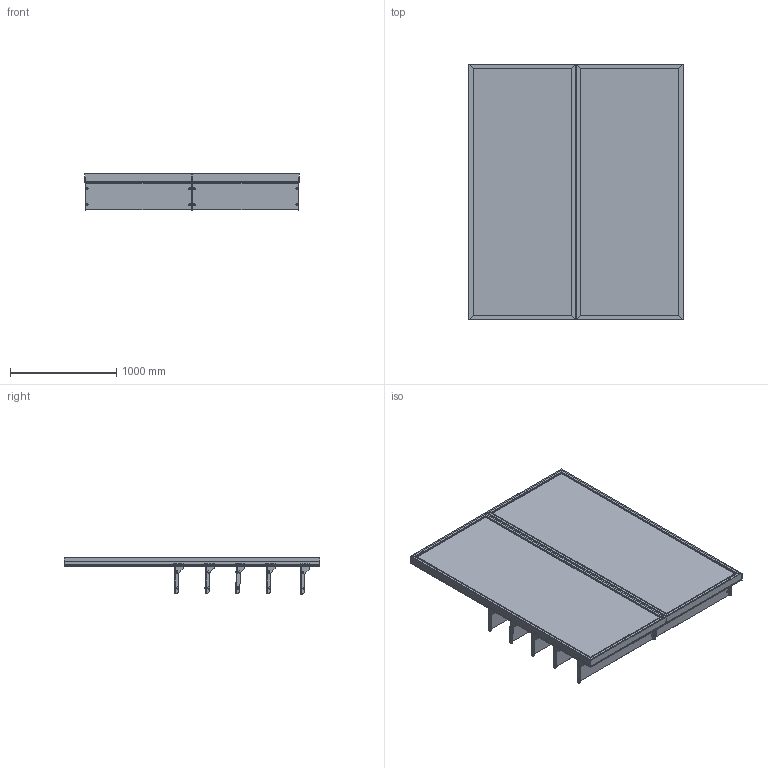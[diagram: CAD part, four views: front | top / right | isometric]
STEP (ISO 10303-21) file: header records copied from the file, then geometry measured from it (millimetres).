
FILE_DESCRIPTION (( 'STEP AP203' ), '1' );
FILE_NAME ('2m Double Illuminated Salon Retail Wall - Glass Shelving.STEP', '2026-03-30T13:26:29', ( '' ), ( '' ), 'SwSTEP 2.0', 'SolidWorks 2025', '' );
FILE_SCHEMA (( 'CONFIG_CONTROL_DESIGN' ));
Length unit declared in the file: millimetre
Products named in the file (12): 0000-31-113.STEP; 0001-31-114.STEP; 0001-31-SA29.STEP; 0001-31-GA10 - 1005W Slotted upbright; 0001-31-SA31 - 1005W Glass Shelf_Assem5; Wide Illuminated Salon Retail Display - Glass Shelving_Assem1; 0001-31-SA31 - 1005W Glass Shelf.STEP; 0001-31-123.STEP; 0001-31-124.STEP; 0001-31-SA30.STEP; 0001-31-132.STEP; 2m Double Illuminated Salon Retail Wall - Glass Shelving
Assembly tree (30 placements, depth 6):
  2m Double Illuminated Salon Retail Wall - Glass Shelving
    Wide Illuminated Salon Retail Display - Glass Shelving_Assem1  x2
      0001-31-GA10 - 1005W Slotted upbright
      0001-31-SA31 - 1005W Glass Shelf_Assem5
        0001-31-SA31 - 1005W Glass Shelf.STEP
          0001-31-SA29.STEP
            0000-31-113.STEP
            0001-31-114.STEP  x2
          0001-31-SA30.STEP
            0000-31-113.STEP
            0001-31-114.STEP  x2
          0001-31-132.STEP
          0001-31-124.STEP  x4
          0001-31-123.STEP  x8
Bounding box: 2011.48 x 2400 x 340.44 mm (x, y, z)
Volume: 36439625.7 mm3; surface area: 29684723.7 mm2
Topology: 202 solids, 202 shells, 4372 faces, 11832 edges, 7648 vertices
Faces by surface type: plane 3016, cylinder 1196, cone 160
Entity records: 29413 total; most frequent: CARTESIAN_POINT 5284, ORIENTED_EDGE 5082, DIRECTION 4065, EDGE_CURVE 2541, LINE 2371, VECTOR 2371, VERTEX_POINT 1682, EDGE_LOOP 913
